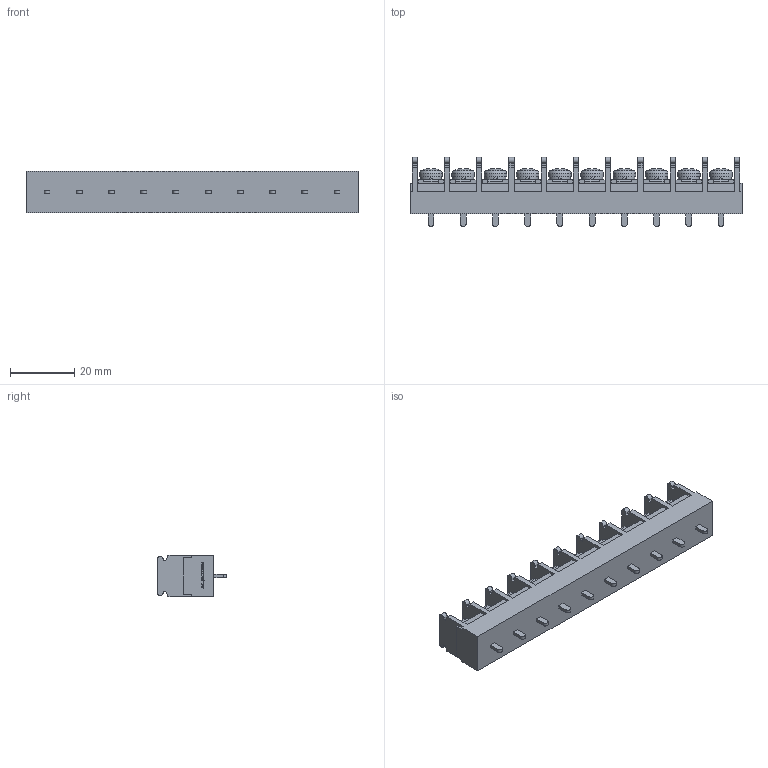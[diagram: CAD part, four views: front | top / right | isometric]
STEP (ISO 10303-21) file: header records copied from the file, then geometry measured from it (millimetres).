
FILE_DESCRIPTION(/* description */ ('Alibre Inc.'),/* implementation_level */ '2;1');
FILE_NAME(/* name */ 'export0',/* time_stamp */ '2015-10-17T18:10:27+09:00',/* author */ (''),/* organization */ (''),/* preprocessor_version */ 'ST-DEVELOPER v14',/* originating_system */ 'Alibre',/* authorisation */ '');
FILE_SCHEMA (('CONFIG_CONTROL_DESIGN'));
Length unit declared in the file: centimetre
Products named in the file (1): ID_1
Bounding box: 103 x 21.5 x 13 mm (x, y, z)
Volume: 15817.5 mm3; surface area: 9108.4 mm2
Topology: 1 solids, 17 shells, 1034 faces, 2820 edges, 1870 vertices
Faces by surface type: plane 778, bspline 104, cylinder 82, cone 40, torus 20, sphere 10
Full cylindrical faces by diameter (mm): 4 x10, 6.5 x10, 7 x10
Entity records: 31611 total; most frequent: CARTESIAN_POINT 6891, ORIENTED_EDGE 5500, DIRECTION 4010, EDGE_CURVE 2750, VECTOR 2018, LINE 2018, VERTEX_POINT 1840, AXIS2_PLACEMENT_3D 1385
